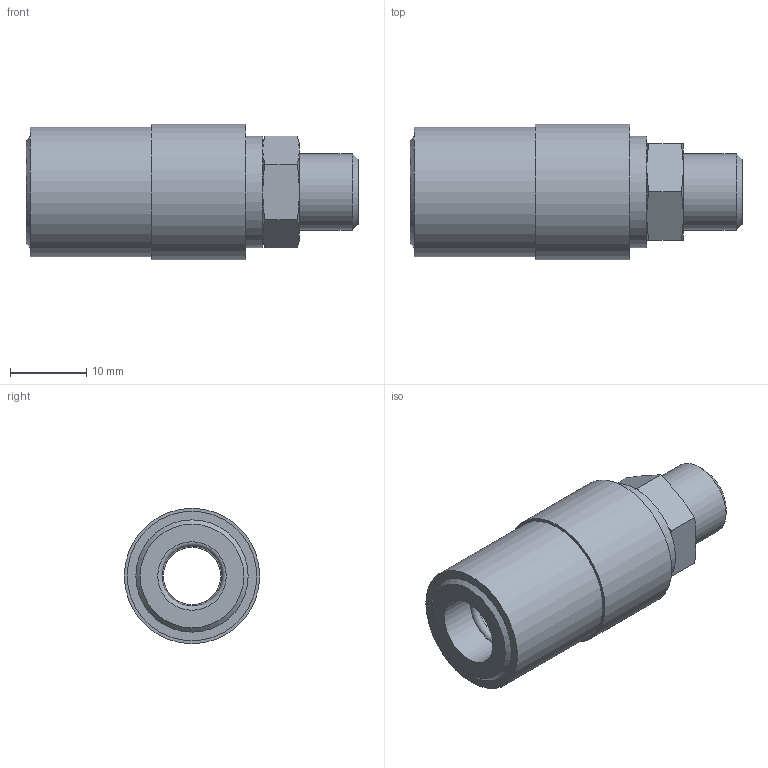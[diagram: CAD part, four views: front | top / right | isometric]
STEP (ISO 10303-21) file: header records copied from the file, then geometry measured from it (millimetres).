
FILE_DESCRIPTION( ( 'STEP AP203' ), ' ' );
FILE_NAME( 'p:/temp/worker_17/3740_284/app_46_02016051609451937229948192d056f_000000_00_00_000000/format_0/FSK206V.stp', '2016-05-16T07:45:19', ( '' ), ( '' ), ' ', 'PARTsolutions', ' ' );
FILE_SCHEMA( ( 'CONFIG_CONTROL_DESIGN' ) );
Length unit declared in the file: millimetre
Products named in the file (1): _FSK206V
Bounding box: 43.57 x 17.76 x 17.76 mm (x, y, z)
Volume: 6188.7 mm3; surface area: 3630.7 mm2
Topology: 1 solids, 1 shells, 36 faces, 69 edges, 41 vertices
Faces by surface type: plane 14, cone 14, cylinder 7, torus 1
Full cylindrical faces by diameter (mm): 7.518 x1, 9 x2, 9.985 x1, 14.668 x1, 17 x1, 17.762 x1
Entity records: 932 total; most frequent: CARTESIAN_POINT 217, DIRECTION 138, ORIENTED_EDGE 118, AXIS2_PLACEMENT_3D 66, EDGE_CURVE 59, EDGE_LOOP 54, FACE_OUTER_BOUND 44, VERTEX_POINT 41
